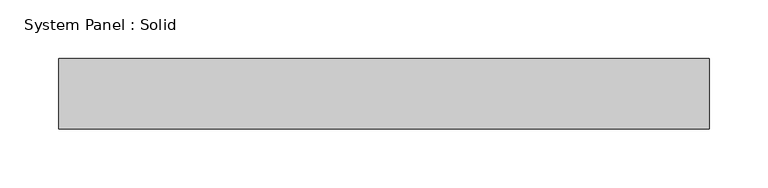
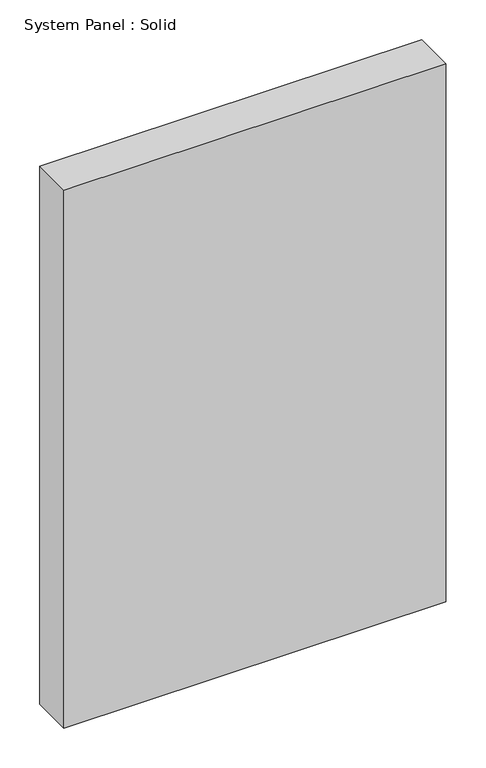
"""IFC4 building model written with IfcOpenShell, lengths in millimetres: plate geometry, System Panel : Solid."""

from ifc_helpers import new_model, si_unit, origin, origin_with_axes, place, context, project, spatial, polyline, outline, extrude, source, transform, mapped, element, save


def system_panel_solid_37a388a8(model_context):
    return source(origin(), model_context, "Body", "SweptSolid", [
        extrude(outline(polyline([(276.9999999, -49.5), (-276.9999999, -49.5), (-276.9999999, 10.5), (276.9999999, 10.5), (276.9999999, -49.5)])), origin_with_axes(), (0.0, 0.0, 1.0), 825.0),
    ])


if __name__ == "__main__":
    model = new_model("IFC4")
    model_context = context("Model", 3, world=origin())
    ifc_project = project(units=[si_unit("LENGTHUNIT", "METRE", prefix="MILLI")], contexts=[model_context])
    site = spatial("IfcSite", under=ifc_project)
    building = spatial("IfcBuilding", under=site)
    placement = place(None, origin())
    system_panel_solid_shape = system_panel_solid_37a388a8(model_context)
    element("IfcPlate", 1, ObjectType="System Panel : Solid", at=placement, inside=building, context=model_context, shape_type="MappedRepresentation", body=[
        mapped(system_panel_solid_shape, transform((0.0, 0.0, 0.0), x_axis=(1.0, 0.0, 0.0), y_axis=(0.0, 1.0, 0.0), z_axis=(0.0, 0.0, 1.0))),
    ])
    save(model, "model.ifc")
